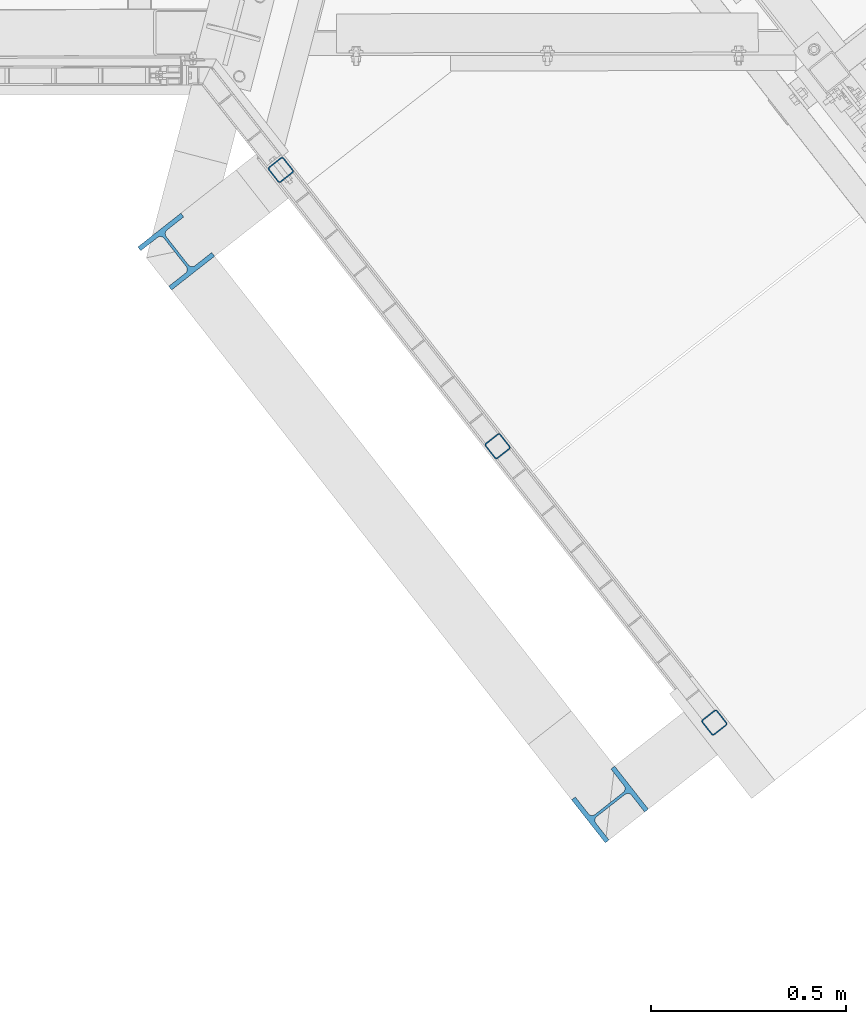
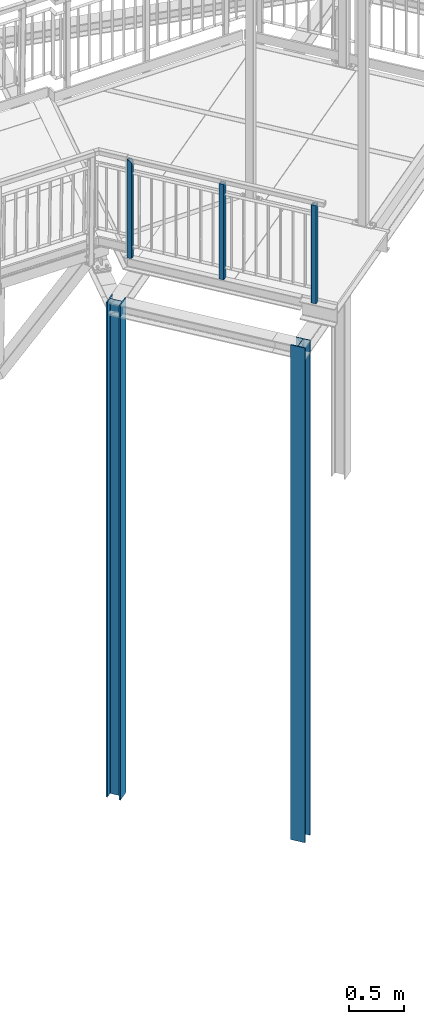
# One storey, part 3 of 169: 5 columns, 5 elements without a shape of their own.
"""IFC2X3 building model written with IfcOpenShell, lengths in millimetres."""

from ifc_helpers import new_model, si_unit, frame, origin_with_axes, origin_2d_with_axis, place, context, subcontext, project, spatial, hollow_rectangle, i_section, extrude, clip, halfspace, material, type_object, element, aggregate, save


model = new_model("IFC2X3")

# Units and contexts
model_context = context("Model", 3, precision=1e-05, world=origin_with_axes())
body_context = subcontext(model_context, "Body", "Model", "MODEL_VIEW")
ifc_project = project(units=[si_unit("LENGTHUNIT", "METRE", prefix="MILLI"), si_unit("AREAUNIT", "SQUARE_METRE"), si_unit("VOLUMEUNIT", "CUBIC_METRE"), si_unit("MASSUNIT", "GRAM", prefix="KILO"), si_unit("TIMEUNIT", "SECOND"), si_unit("PLANEANGLEUNIT", "RADIAN"), si_unit("SOLIDANGLEUNIT", "STERADIAN"), si_unit("THERMODYNAMICTEMPERATUREUNIT", "DEGREE_CELSIUS"), si_unit("LUMINOUSINTENSITYUNIT", "LUMEN")], contexts=[model_context])

# Site, building, storey
site_placement = place(None, origin_with_axes())
site = spatial("IfcSite", under=ifc_project, at=site_placement, Name="Undefined", CompositionType="ELEMENT")
building_placement = place(site_placement, origin_with_axes())
building = spatial("IfcBuilding", under=site, at=building_placement, Name="Undefined", CompositionType="ELEMENT")
storey_placement = place(building_placement, origin_with_axes())
storey = spatial("IfcBuildingStorey", under=building, at=storey_placement, Name="Undefined", CompositionType="ELEMENT", Elevation=0.0)

# Assembly, column
assembly_1_placement = place(storey_placement, origin_with_axes())
assembly_1 = element("IfcElementAssembly", 1, at=assembly_1_placement, inside=storey, Name="Steel Assembly", AssemblyPlace="NOTDEFINED", PredefinedType="RIGID_FRAME")
ifc_material_1 = material(Name="STEEL/S235")
column_type_1 = type_object("IfcColumnType", Name="SHS50*3", PredefinedType="NOTDEFINED")
column_1_placement = place(assembly_1_placement, frame((19669.1069328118, -1628.38656084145, 13795.4174147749), z_axis=(0.0, 0.0, 1.0), x_axis=(-0.7867732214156, -0.61724217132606, -1.0406294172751e-07)))
column_1 = element("IfcColumn", 2, at=column_1_placement, type_object=column_type_1, material=ifc_material_1, Name="STANCHION", ObjectType="SHS50*3", context=body_context, shape_type="Clipping", body=[
    clip(clip(extrude(hollow_rectangle(XDim=50.0, YDim=50.0, WallThickness=3.0, InnerFilletRadius=3.0, OuterFilletRadius=6.0, at=origin_2d_with_axis()), frame((-1.81898940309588e-12, 0.0, 1054.99999590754), z_axis=(-2.54700353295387e-10, 0.0, -1.0), x_axis=(0.0, 1.0, 0.0)), (0.0, 0.0, 1.0), 1085.0), halfspace(frame((1.63527147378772e-09, 25.0000000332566, 1054.99999580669), z_axis=(0.0, 0.0, 1.0), x_axis=(1.0, 0.0, 0.0)), False)), halfspace(frame((1000.00001032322, 2.96859070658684e-09, -30.0001063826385), z_axis=(0.0, 0.0, 1.0), x_axis=(1.73472347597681e-18, -1.0, 0.0)), True)),
])
aggregate(assembly_1, [column_1])

assembly_2_placement = place(storey_placement, origin_with_axes())
assembly_2 = element("IfcElementAssembly", 3, at=assembly_2_placement, inside=storey, Name="Steel Assembly", AssemblyPlace="NOTDEFINED", PredefinedType="RIGID_FRAME")
column_2_placement = place(assembly_2_placement, frame((19113.8059228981, -920.567191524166, 13795.4172924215), z_axis=(0.0, 0.0, 1.0), x_axis=(-0.7867732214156, -0.61724217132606, -1.0406294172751e-07)))
column_2 = element("IfcColumn", 4, at=column_2_placement, type_object=column_type_1, material=ifc_material_1, Name="STANCHION", ObjectType="SHS50*3", context=body_context, shape_type="Clipping", body=[
    clip(clip(extrude(hollow_rectangle(XDim=50.0, YDim=50.0, WallThickness=3.0, InnerFilletRadius=3.0, OuterFilletRadius=6.0, at=origin_2d_with_axis()), frame((-1.81898940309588e-12, 0.0, 1054.99999590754), z_axis=(-2.54700353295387e-10, 0.0, -1.0), x_axis=(0.0, 1.0, 0.0)), (0.0, 0.0, 1.0), 1055.0), halfspace(frame((1.63527147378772e-09, 25.0000000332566, 1054.99999580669), z_axis=(0.0, 0.0, 1.0), x_axis=(1.0, 0.0, 0.0)), False)), halfspace(frame((999.999999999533, 2.68300937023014e-09, -1.36424205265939e-09), z_axis=(0.0, 0.0, 1.0), x_axis=(1.73472347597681e-18, -1.0, 0.0)), True)),
])
aggregate(assembly_2, [column_2])

assembly_3_placement = place(storey_placement, origin_with_axes())
assembly_3 = element("IfcElementAssembly", 5, at=assembly_3_placement, inside=storey, Name="Steel Assembly", AssemblyPlace="NOTDEFINED", PredefinedType="RIGID_FRAME")
column_3_placement = place(assembly_3_placement, frame((18558.5049129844, -212.74782220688, 13795.4171700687), z_axis=(0.0, 0.0, 1.0), x_axis=(-0.7867732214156, -0.61724217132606, -1.0406294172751e-07)))
column_3 = element("IfcColumn", 6, at=column_3_placement, type_object=column_type_1, material=ifc_material_1, Name="STANCHION", ObjectType="SHS50*3", context=body_context, shape_type="Clipping", body=[
    clip(clip(extrude(hollow_rectangle(XDim=50.0, YDim=50.0, WallThickness=3.0, InnerFilletRadius=3.0, OuterFilletRadius=6.0, at=origin_2d_with_axis()), frame((-1.81898940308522e-12, 1.81898940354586e-12, 1079.99999978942), z_axis=(-2.54700353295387e-10, 0.0, -1.0), x_axis=(0.0, 1.0, 0.0)), (0.0, 0.0, 1.0), 1080.0), halfspace(frame((-2.34649633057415e-10, -25.0000000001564, 1104.99999985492), z_axis=(3.1140666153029e-11, -0.707106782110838, -0.707106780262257), x_axis=(1.0, 0.0, 0.0)), True)), halfspace(frame((999.999999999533, 2.68300937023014e-09, -1.36424205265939e-09), z_axis=(0.0, 0.0, 1.0), x_axis=(1.73472347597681e-18, -1.0, 0.0)), True)),
])
aggregate(assembly_3, [column_3])

assembly_4_placement = place(storey_placement, origin_with_axes())
assembly_4 = element("IfcElementAssembly", 7, at=assembly_4_placement, inside=storey, Name="Steel Assembly", AssemblyPlace="NOTDEFINED", PredefinedType="RIGID_FRAME")
ifc_material_2 = material(Name="STEEL/S355")
column_type_2 = type_object("IfcColumnType", Name="HEB140", PredefinedType="NOTDEFINED")
column_4_placement = place(assembly_4_placement, frame((19401.6045982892, -1838.24944493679, 8070.41737665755), z_axis=(0.0, 0.0, 1.0), x_axis=(-0.7867732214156, -0.61724217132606, -1.0406294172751e-07)))
column_4 = element("IfcColumn", 8, at=column_4_placement, type_object=column_type_2, material=ifc_material_2, Name="COLUMN", ObjectType="HEB140", context=body_context, shape_type="SweptSolid", body=[
    extrude(i_section(OverallWidth=140.0, OverallDepth=140.0, WebThickness=7.0, FlangeThickness=12.0, FilletRadius=12.0, at=origin_2d_with_axis()), frame((1.81898943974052e-12, 1.81898940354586e-12, 5469.58262334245), z_axis=(-2.54700353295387e-10, 0.0, -1.0), x_axis=(0.0, 1.0, 0.0)), (0.0, 0.0, 1.0), 5469.58),
])
aggregate(assembly_4, [column_4])

assembly_5_placement = place(storey_placement, origin_with_axes())
assembly_5 = element("IfcElementAssembly", 9, at=assembly_5_placement, inside=storey, Name="Steel Assembly", AssemblyPlace="NOTDEFINED", PredefinedType="RIGID_FRAME")
column_5_placement = place(assembly_5_placement, frame((18290.5700320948, -422.058100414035, 8070.41713040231), z_axis=(0.0, 0.0, 1.0), x_axis=(0.617242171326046, -0.786773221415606, 1.36000016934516e-07)))
column_5 = element("IfcColumn", 10, at=column_5_placement, type_object=column_type_2, material=ifc_material_2, Name="COLUMN", ObjectType="HEB140", context=body_context, shape_type="SweptSolid", body=[
    extrude(i_section(OverallWidth=140.0, OverallDepth=140.0, WebThickness=7.0, FlangeThickness=12.0, FilletRadius=12.0, at=origin_2d_with_axis()), frame((0.0, 0.0, 5469.58286959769), z_axis=(-2.54700353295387e-10, 0.0, -1.0), x_axis=(0.0, 1.0, 0.0)), (0.0, 0.0, 1.0), 5469.58),
])
aggregate(assembly_5, [column_5])

save(model, "model.ifc")
